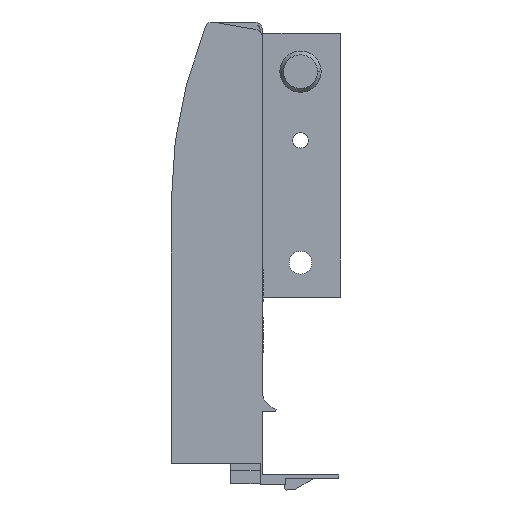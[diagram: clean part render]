
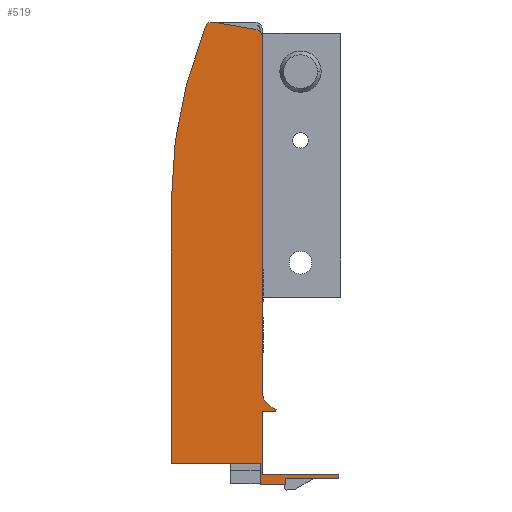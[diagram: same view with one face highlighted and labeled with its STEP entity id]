
A CAD part, front view. The second image highlights one B-rep face of the part: STEP entity #519.
In plain terms, the highlighted planar face has unit normal (0, -1, 0).
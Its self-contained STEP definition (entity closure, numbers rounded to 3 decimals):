
#36 = FACE_OUTER_BOUND ( 'NONE', #155, .T. ) ;
#155 = EDGE_LOOP ( 'NONE', ( #2358, #2493, #2335, #2473, #2215, #2488, #2396, #2508, #2213, #2238, #2192, #2256, #2378, #2357, #2282, #2283, #2259 ) ) ;
#255 = LINE ( 'NONE', #2151, #256 ) ;
#256 = VECTOR ( 'NONE', #2152, 1000. ) ;
#261 = VECTOR ( 'NONE', #2166, 1000. ) ;
#262 = LINE ( 'NONE', #2165, #261 ) ;
#275 = VECTOR ( 'NONE', #2030, 1000. ) ;
#288 = CIRCLE ( 'NONE', #797, 5. ) ;
#309 = LINE ( 'NONE', #2027, #275 ) ;
#383 = LINE ( 'NONE', #2063, #394 ) ;
#394 = VECTOR ( 'NONE', #2067, 1000. ) ;
#402 = VECTOR ( 'NONE', #2073, 1000. ) ;
#412 = LINE ( 'NONE', #2072, #402 ) ;
#472 = AXIS2_PLACEMENT_3D ( 'NONE', #1183, #1195, #1196 ) ;
#477 = AXIS2_PLACEMENT_3D ( 'NONE', #1206, #1207, #1208 ) ;
#481 = AXIS2_PLACEMENT_3D ( 'NONE', #2170, #1157, #1158 ) ;
#519 = ADVANCED_FACE ( 'NONE', ( #36 ), #1635, .F. ) ;
#616 = CIRCLE ( 'NONE', #481, 120.6 ) ;
#721 = EDGE_CURVE ( 'NONE', #2664, #2671, #288, .T. ) ;
#743 = EDGE_CURVE ( 'NONE', #2603, #2664, #309, .T. ) ;
#783 = EDGE_CURVE ( 'NONE', #2653, #2666, #383, .T. ) ;
#786 = EDGE_CURVE ( 'NONE', #2661, #2608, #412, .T. ) ;
#797 = AXIS2_PLACEMENT_3D ( 'NONE', #1980, #1986, #1987 ) ;
#827 = EDGE_CURVE ( 'NONE', #2650, #2653, #2560, .T. ) ;
#839 = EDGE_CURVE ( 'NONE', #2670, #2668, #255, .T. ) ;
#858 = EDGE_CURVE ( 'NONE', #2633, #2669, #262, .T. ) ;
#860 = EDGE_CURVE ( 'NONE', #2666, #2665, #616, .T. ) ;
#881 = EDGE_CURVE ( 'NONE', #2665, #2661, #887, .T. ) ;
#885 = EDGE_CURVE ( 'NONE', #2630, #2633, #2552, .T. ) ;
#887 = CIRCLE ( 'NONE', #472, 2. ) ;
#891 = EDGE_CURVE ( 'NONE', #2608, #2603, #898, .T. ) ;
#893 = VECTOR ( 'NONE', #1205, 1000. ) ;
#898 = CIRCLE ( 'NONE', #477, 2. ) ;
#905 = EDGE_CURVE ( 'NONE', #2672, #2630, #907, .T. ) ;
#907 = LINE ( 'NONE', #1215, #909 ) ;
#909 = VECTOR ( 'NONE', #1216, 1000. ) ;
#981 = LINE ( 'NONE', #1287, #982 ) ;
#982 = VECTOR ( 'NONE', #1288, 1000. ) ;
#1001 = LINE ( 'NONE', #1324, #1013 ) ;
#1004 = LINE ( 'NONE', #1310, #1005 ) ;
#1005 = VECTOR ( 'NONE', #1311, 1000. ) ;
#1013 = VECTOR ( 'NONE', #1325, 1000. ) ;
#1031 = LINE ( 'NONE', #1345, #1033 ) ;
#1033 = VECTOR ( 'NONE', #1346, 1000. ) ;
#1066 = LINE ( 'NONE', #1370, #1068 ) ;
#1067 = EDGE_CURVE ( 'NONE', #2668, #2667, #981, .T. ) ;
#1068 = VECTOR ( 'NONE', #1371, 1000. ) ;
#1094 = EDGE_CURVE ( 'NONE', #2572, #2650, #1004, .T. ) ;
#1106 = EDGE_CURVE ( 'NONE', #2669, #2670, #1001, .T. ) ;
#1116 = AXIS2_PLACEMENT_3D ( 'NONE', #1638, #1644, #1645 ) ;
#1131 = EDGE_CURVE ( 'NONE', #2671, #2672, #1031, .T. ) ;
#1142 = EDGE_CURVE ( 'NONE', #2667, #2572, #1066, .T. ) ;
#1157 = DIRECTION ( 'NONE',  ( 0., 1., 0. ) ) ;
#1158 = DIRECTION ( 'NONE',  ( -1., 0., 0. ) ) ;
#1183 = CARTESIAN_POINT ( 'NONE',  ( 8.5, 0., 100. ) ) ;
#1195 = DIRECTION ( 'NONE',  ( 0., 1., 0. ) ) ;
#1196 = DIRECTION ( 'NONE',  ( -1., 0., 0. ) ) ;
#1204 = CARTESIAN_POINT ( 'NONE',  ( 21.5, 0., 0. ) ) ;
#1205 = DIRECTION ( 'NONE',  ( 0., 0., -1. ) ) ;
#1206 = CARTESIAN_POINT ( 'NONE',  ( 19.5, 0., 98.06 ) ) ;
#1207 = DIRECTION ( 'NONE',  ( 0., 1., 0. ) ) ;
#1208 = DIRECTION ( 'NONE',  ( -1., 0., 0. ) ) ;
#1215 = CARTESIAN_POINT ( 'NONE',  ( 25., 0., 0. ) ) ;
#1216 = DIRECTION ( 'NONE',  ( -1., 0., 0. ) ) ;
#1287 = CARTESIAN_POINT ( 'NONE',  ( 27.599, 0., -17.528 ) ) ;
#1288 = DIRECTION ( 'NONE',  ( 0., 0., -1. ) ) ;
#1310 = CARTESIAN_POINT ( 'NONE',  ( 20.9, 0., -19.1 ) ) ;
#1311 = DIRECTION ( 'NONE',  ( 0., 0., 1. ) ) ;
#1324 = CARTESIAN_POINT ( 'NONE',  ( 41.499, 0., -16.5 ) ) ;
#1325 = DIRECTION ( 'NONE',  ( 0., 0., -1. ) ) ;
#1345 = CARTESIAN_POINT ( 'NONE',  ( 25.161, 0., 0.578 ) ) ;
#1346 = DIRECTION ( 'NONE',  ( -0.268, 0., -0.963 ) ) ;
#1370 = CARTESIAN_POINT ( 'NONE',  ( 27.599, 0., -19.1 ) ) ;
#1371 = DIRECTION ( 'NONE',  ( -1., 0., 0. ) ) ;
#1422 = CARTESIAN_POINT ( 'NONE',  ( 20.9, 0., -19.1 ) ) ;
#1449 = CARTESIAN_POINT ( 'NONE',  ( 21.5, 0., 98.06 ) ) ;
#1454 = CARTESIAN_POINT ( 'NONE',  ( 19.847, 0., 100.03 ) ) ;
#1476 = CARTESIAN_POINT ( 'NONE',  ( 21.5, 0., 0. ) ) ;
#1479 = CARTESIAN_POINT ( 'NONE',  ( 21.5, 0., -16.5 ) ) ;
#1496 = CARTESIAN_POINT ( 'NONE',  ( 20.9, 0., -13.5 ) ) ;
#1499 = CARTESIAN_POINT ( 'NONE',  ( -2.3, 0., -13.5 ) ) ;
#1507 = CARTESIAN_POINT ( 'NONE',  ( 8.847, 0., 101.97 ) ) ;
#1510 = CARTESIAN_POINT ( 'NONE',  ( 21.5, 0., 5.395 ) ) ;
#1511 = CARTESIAN_POINT ( 'NONE',  ( 6.648, 0., 100.756 ) ) ;
#1512 = CARTESIAN_POINT ( 'NONE',  ( -2.3, 0., 55.168 ) ) ;
#1513 = CARTESIAN_POINT ( 'NONE',  ( 27.599, 0., -19.1 ) ) ;
#1514 = CARTESIAN_POINT ( 'NONE',  ( 27.599, 0., -17.528 ) ) ;
#1515 = CARTESIAN_POINT ( 'NONE',  ( 41.499, 0., -16.5 ) ) ;
#1516 = CARTESIAN_POINT ( 'NONE',  ( 41.499, 0., -17.528 ) ) ;
#1517 = CARTESIAN_POINT ( 'NONE',  ( 25.161, 0., 0.578 ) ) ;
#1518 = CARTESIAN_POINT ( 'NONE',  ( 25., 0., 0. ) ) ;
#1635 = PLANE ( 'NONE',  #1116 ) ;
#1638 = CARTESIAN_POINT ( 'NONE',  ( 8.75, 0., 61.5 ) ) ;
#1644 = DIRECTION ( 'NONE',  ( 0., 1., 0. ) ) ;
#1645 = DIRECTION ( 'NONE',  ( 0., 0., 1. ) ) ;
#1980 = CARTESIAN_POINT ( 'NONE',  ( 26.5, 0., 5.395 ) ) ;
#1986 = DIRECTION ( 'NONE',  ( 0., -1., 0. ) ) ;
#1987 = DIRECTION ( 'NONE',  ( -1., 0., 0. ) ) ;
#2027 = CARTESIAN_POINT ( 'NONE',  ( 21.5, 0., 98.06 ) ) ;
#2030 = DIRECTION ( 'NONE',  ( 0., 0., -1. ) ) ;
#2063 = CARTESIAN_POINT ( 'NONE',  ( -2.3, 0., -13.5 ) ) ;
#2067 = DIRECTION ( 'NONE',  ( 0., 0., 1. ) ) ;
#2072 = CARTESIAN_POINT ( 'NONE',  ( 8.847, 0., 101.97 ) ) ;
#2073 = DIRECTION ( 'NONE',  ( 0.985, 0., -0.174 ) ) ;
#2118 = CARTESIAN_POINT ( 'NONE',  ( -2.3, 0., -13.5 ) ) ;
#2123 = DIRECTION ( 'NONE',  ( -1., 0., 0. ) ) ;
#2151 = CARTESIAN_POINT ( 'NONE',  ( 41.499, 0., -17.528 ) ) ;
#2152 = DIRECTION ( 'NONE',  ( -1., 0., 0. ) ) ;
#2165 = CARTESIAN_POINT ( 'NONE',  ( 21.5, 0., -16.5 ) ) ;
#2166 = DIRECTION ( 'NONE',  ( 1., 0., 0. ) ) ;
#2170 = CARTESIAN_POINT ( 'NONE',  ( 118.3, 0., 55.168 ) ) ;
#2192 = ORIENTED_EDGE ( 'NONE', *, *, #839, .F. ) ;
#2213 = ORIENTED_EDGE ( 'NONE', *, *, #1142, .F. ) ;
#2215 = ORIENTED_EDGE ( 'NONE', *, *, #860, .F. ) ;
#2238 = ORIENTED_EDGE ( 'NONE', *, *, #1067, .F. ) ;
#2256 = ORIENTED_EDGE ( 'NONE', *, *, #1106, .F. ) ;
#2259 = ORIENTED_EDGE ( 'NONE', *, *, #721, .F. ) ;
#2282 = ORIENTED_EDGE ( 'NONE', *, *, #905, .F. ) ;
#2283 = ORIENTED_EDGE ( 'NONE', *, *, #1131, .F. ) ;
#2335 = ORIENTED_EDGE ( 'NONE', *, *, #786, .F. ) ;
#2357 = ORIENTED_EDGE ( 'NONE', *, *, #885, .F. ) ;
#2358 = ORIENTED_EDGE ( 'NONE', *, *, #743, .F. ) ;
#2378 = ORIENTED_EDGE ( 'NONE', *, *, #858, .F. ) ;
#2396 = ORIENTED_EDGE ( 'NONE', *, *, #827, .F. ) ;
#2473 = ORIENTED_EDGE ( 'NONE', *, *, #881, .F. ) ;
#2488 = ORIENTED_EDGE ( 'NONE', *, *, #783, .F. ) ;
#2493 = ORIENTED_EDGE ( 'NONE', *, *, #891, .F. ) ;
#2508 = ORIENTED_EDGE ( 'NONE', *, *, #1094, .F. ) ;
#2552 = LINE ( 'NONE', #1204, #893 ) ;
#2559 = VECTOR ( 'NONE', #2123, 1000. ) ;
#2560 = LINE ( 'NONE', #2118, #2559 ) ;
#2572 = VERTEX_POINT ( 'NONE', #1422 ) ;
#2603 = VERTEX_POINT ( 'NONE', #1449 ) ;
#2608 = VERTEX_POINT ( 'NONE', #1454 ) ;
#2630 = VERTEX_POINT ( 'NONE', #1476 ) ;
#2633 = VERTEX_POINT ( 'NONE', #1479 ) ;
#2650 = VERTEX_POINT ( 'NONE', #1496 ) ;
#2653 = VERTEX_POINT ( 'NONE', #1499 ) ;
#2661 = VERTEX_POINT ( 'NONE', #1507 ) ;
#2664 = VERTEX_POINT ( 'NONE', #1510 ) ;
#2665 = VERTEX_POINT ( 'NONE', #1511 ) ;
#2666 = VERTEX_POINT ( 'NONE', #1512 ) ;
#2667 = VERTEX_POINT ( 'NONE', #1513 ) ;
#2668 = VERTEX_POINT ( 'NONE', #1514 ) ;
#2669 = VERTEX_POINT ( 'NONE', #1515 ) ;
#2670 = VERTEX_POINT ( 'NONE', #1516 ) ;
#2671 = VERTEX_POINT ( 'NONE', #1517 ) ;
#2672 = VERTEX_POINT ( 'NONE', #1518 ) ;
